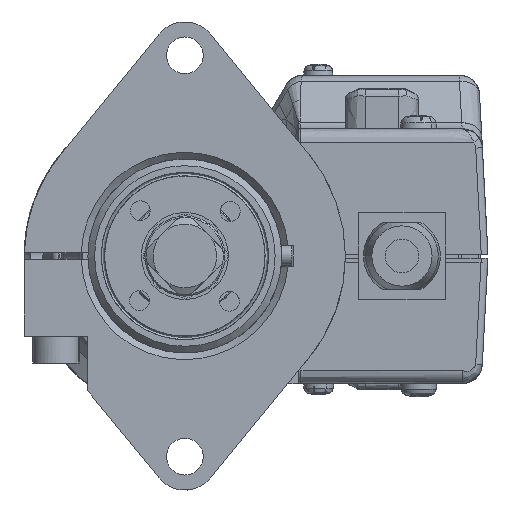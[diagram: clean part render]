
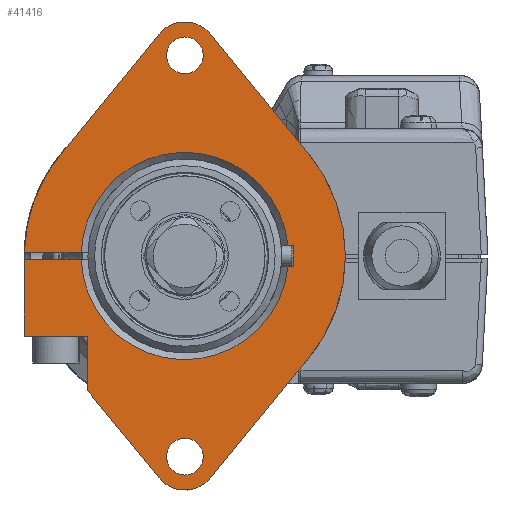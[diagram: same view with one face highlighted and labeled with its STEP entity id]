
A CAD part, left-side view. The second image highlights one B-rep face of the part: STEP entity #41416.
In plain terms, the highlighted planar face has unit normal (-1, 0, 0).
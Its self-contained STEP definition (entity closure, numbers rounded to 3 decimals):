
#40126=CARTESIAN_POINT('',(684.34,734.596,-451.712));
#40127=VERTEX_POINT('',#40126);
#40134=CARTESIAN_POINT('',(684.34,749.3,-469.679));
#40135=VERTEX_POINT('',#40134);
#40136=CARTESIAN_POINT('',(684.34,749.3,-469.679));
#40137=DIRECTION('',(0.,-0.633,0.774));
#40138=VECTOR('',#40137,23.216);
#40139=LINE('',#40136,#40138);
#40140=EDGE_CURVE('',#40135,#40127,#40139,.T.);
#40165=CARTESIAN_POINT('',(684.34,734.596,-421.312));
#40166=VERTEX_POINT('',#40165);
#40173=CARTESIAN_POINT('',(684.34,753.169,-436.512));
#40174=DIRECTION('',(-1.,0.,0.));
#40175=DIRECTION('',(0.,-0.774,-0.633));
#40176=AXIS2_PLACEMENT_3D('',#40173,#40174,#40175);
#40177=CIRCLE('',#40176,24.);
#40178=EDGE_CURVE('',#40127,#40166,#40177,.T.);
#40197=CARTESIAN_POINT('',(684.34,749.3,-403.345));
#40198=VERTEX_POINT('',#40197);
#40205=CARTESIAN_POINT('',(684.34,734.596,-421.312));
#40206=DIRECTION('',(0.,0.633,0.774));
#40207=VECTOR('',#40206,23.216);
#40208=LINE('',#40205,#40207);
#40209=EDGE_CURVE('',#40166,#40198,#40208,.T.);
#40229=CARTESIAN_POINT('',(684.34,757.039,-403.345));
#40230=VERTEX_POINT('',#40229);
#40237=CARTESIAN_POINT('',(684.34,753.169,-406.512));
#40238=DIRECTION('',(-1.0,0.,0.));
#40239=DIRECTION('',(0.,-0.774,0.633));
#40240=AXIS2_PLACEMENT_3D('',#40237,#40238,#40239);
#40241=CIRCLE('',#40240,5.);
#40242=EDGE_CURVE('',#40198,#40230,#40241,.T.);
#40287=CARTESIAN_POINT('',(684.34,771.742,-421.312));
#40288=VERTEX_POINT('',#40287);
#40295=CARTESIAN_POINT('',(684.34,757.039,-403.345));
#40296=DIRECTION('',(0.,0.633,-0.774));
#40297=VECTOR('',#40296,23.216);
#40298=LINE('',#40295,#40297);
#40299=EDGE_CURVE('',#40230,#40288,#40298,.T.);
#40319=CARTESIAN_POINT('',(684.34,777.164,-436.012));
#40320=VERTEX_POINT('',#40319);
#40327=CARTESIAN_POINT('',(684.34,753.169,-436.512));
#40328=DIRECTION('',(-1.,0.,0.));
#40329=DIRECTION('',(0.,0.774,0.633));
#40330=AXIS2_PLACEMENT_3D('',#40327,#40328,#40329);
#40331=CIRCLE('',#40330,24.);
#40332=EDGE_CURVE('',#40288,#40320,#40331,.T.);
#40382=CARTESIAN_POINT('',(684.34,736.969,-438.012));
#40383=VERTEX_POINT('',#40382);
#40390=CARTESIAN_POINT('',(684.34,736.969,-435.012));
#40391=VERTEX_POINT('',#40390);
#40392=CARTESIAN_POINT('',(684.34,736.969,-435.012));
#40393=DIRECTION('',(0.,0.,-1.));
#40394=VECTOR('',#40393,3.);
#40395=LINE('',#40392,#40394);
#40396=EDGE_CURVE('',#40391,#40383,#40395,.T.);
#40422=CARTESIAN_POINT('',(684.34,777.169,-448.512));
#40423=VERTEX_POINT('',#40422);
#40430=CARTESIAN_POINT('',(684.34,777.169,-437.012));
#40431=VERTEX_POINT('',#40430);
#40432=CARTESIAN_POINT('',(684.34,777.169,-437.012));
#40433=DIRECTION('',(0.,0.,-1.));
#40434=VECTOR('',#40433,11.5);
#40435=LINE('',#40432,#40434);
#40436=EDGE_CURVE('',#40431,#40423,#40435,.T.);
#40460=CARTESIAN_POINT('',(684.34,767.669,-448.512));
#40461=VERTEX_POINT('',#40460);
#40468=CARTESIAN_POINT('',(684.34,777.169,-448.512));
#40469=DIRECTION('',(0.,-1.,0.));
#40470=VECTOR('',#40469,9.5);
#40471=LINE('',#40468,#40470);
#40472=EDGE_CURVE('',#40423,#40461,#40471,.T.);
#40511=CARTESIAN_POINT('',(684.34,767.669,-456.689));
#40512=VERTEX_POINT('',#40511);
#40519=CARTESIAN_POINT('',(684.34,767.669,-448.512));
#40520=DIRECTION('',(0.,0.,-1.));
#40521=VECTOR('',#40520,8.177);
#40522=LINE('',#40519,#40521);
#40523=EDGE_CURVE('',#40461,#40512,#40522,.T.);
#40542=CARTESIAN_POINT('',(684.34,757.039,-469.679));
#40543=VERTEX_POINT('',#40542);
#40550=CARTESIAN_POINT('',(684.34,767.669,-456.689));
#40551=DIRECTION('',(0.,-0.633,-0.774));
#40552=VECTOR('',#40551,16.785);
#40553=LINE('',#40550,#40552);
#40554=EDGE_CURVE('',#40512,#40543,#40553,.T.);
#40573=CARTESIAN_POINT('',(684.34,753.169,-466.512));
#40574=DIRECTION('',(-1.0,0.,0.));
#40575=DIRECTION('',(0.,0.774,-0.633));
#40576=AXIS2_PLACEMENT_3D('',#40573,#40574,#40575);
#40577=CIRCLE('',#40576,5.);
#40578=EDGE_CURVE('',#40543,#40135,#40577,.T.);
#40678=CARTESIAN_POINT('',(684.34,755.919,-406.512));
#40679=VERTEX_POINT('',#40678);
#40686=CARTESIAN_POINT('',(684.34,750.419,-406.512));
#40687=VERTEX_POINT('',#40686);
#40688=CARTESIAN_POINT('',(684.34,753.169,-406.512));
#40689=DIRECTION('',(-1.,0.,0.));
#40690=DIRECTION('',(0.,1.,0.));
#40691=AXIS2_PLACEMENT_3D('',#40688,#40689,#40690);
#40692=CIRCLE('',#40691,2.75);
#40693=EDGE_CURVE('',#40679,#40687,#40692,.T.);
#40695=CARTESIAN_POINT('',(684.34,753.169,-406.512));
#40696=DIRECTION('',(-1.,0.,0.));
#40697=DIRECTION('',(0.,1.,0.));
#40698=AXIS2_PLACEMENT_3D('',#40695,#40696,#40697);
#40699=CIRCLE('',#40698,2.75);
#40700=EDGE_CURVE('',#40687,#40679,#40699,.T.);
#40729=CARTESIAN_POINT('',(684.34,755.919,-466.512));
#40730=VERTEX_POINT('',#40729);
#40737=CARTESIAN_POINT('',(684.34,750.419,-466.512));
#40738=VERTEX_POINT('',#40737);
#40739=CARTESIAN_POINT('',(684.34,753.169,-466.512));
#40740=DIRECTION('',(-1.,0.,0.));
#40741=DIRECTION('',(0.,1.,0.));
#40742=AXIS2_PLACEMENT_3D('',#40739,#40740,#40741);
#40743=CIRCLE('',#40742,2.75);
#40744=EDGE_CURVE('',#40730,#40738,#40743,.T.);
#40746=CARTESIAN_POINT('',(684.34,753.169,-466.512));
#40747=DIRECTION('',(-1.,0.,0.));
#40748=DIRECTION('',(0.,1.,0.));
#40749=AXIS2_PLACEMENT_3D('',#40746,#40747,#40748);
#40750=CIRCLE('',#40749,2.75);
#40751=EDGE_CURVE('',#40738,#40730,#40750,.T.);
#40771=CARTESIAN_POINT('',(684.34,768.661,-437.012));
#40772=VERTEX_POINT('',#40771);
#40773=CARTESIAN_POINT('',(684.34,768.661,-437.012));
#40774=DIRECTION('',(0.,1.,0.));
#40775=VECTOR('',#40774,8.508);
#40776=LINE('',#40773,#40775);
#40777=EDGE_CURVE('',#40772,#40431,#40776,.T.);
#40933=CARTESIAN_POINT('',(684.34,737.742,-438.012));
#40934=VERTEX_POINT('',#40933);
#40941=CARTESIAN_POINT('',(684.34,736.969,-438.012));
#40942=DIRECTION('',(0.,1.,0.));
#40943=VECTOR('',#40942,0.773);
#40944=LINE('',#40941,#40943);
#40945=EDGE_CURVE('',#40383,#40934,#40944,.T.);
#40958=CARTESIAN_POINT('',(684.34,737.742,-435.012));
#40959=VERTEX_POINT('',#40958);
#40989=CARTESIAN_POINT('',(684.34,737.742,-435.012));
#40990=DIRECTION('',(0.,-1.,0.));
#40991=VECTOR('',#40990,0.773);
#40992=LINE('',#40989,#40991);
#40993=EDGE_CURVE('',#40959,#40391,#40992,.T.);
#41085=CARTESIAN_POINT('',(684.34,768.661,-436.012));
#41086=VERTEX_POINT('',#41085);
#41087=CARTESIAN_POINT('',(684.34,753.169,-436.512));
#41088=DIRECTION('',(1.,0.,0.));
#41089=DIRECTION('',(0.,1.,0.));
#41090=AXIS2_PLACEMENT_3D('',#41087,#41088,#41089);
#41091=CIRCLE('',#41090,15.5);
#41092=EDGE_CURVE('',#41086,#40959,#41091,.T.);
#41132=CARTESIAN_POINT('',(684.34,777.164,-436.012));
#41133=DIRECTION('',(0.,-1.,0.));
#41134=VECTOR('',#41133,8.503);
#41135=LINE('',#41132,#41134);
#41136=EDGE_CURVE('',#40320,#41086,#41135,.T.);
#41326=CARTESIAN_POINT('',(684.34,753.169,-436.512));
#41327=DIRECTION('',(1.,0.,0.));
#41328=DIRECTION('',(0.,0.999,-0.034));
#41329=AXIS2_PLACEMENT_3D('',#41326,#41327,#41328);
#41330=CIRCLE('',#41329,15.5);
#41331=EDGE_CURVE('',#40934,#40772,#41330,.T.);
#41383=CARTESIAN_POINT('',(684.34,724.369,-394.512));
#41384=DIRECTION('',(-1.0,0.,0.));
#41385=DIRECTION('',(0.,1.,0.));
#41386=AXIS2_PLACEMENT_3D('',#41383,#41384,#41385);
#41387=PLANE('',#41386);
#41388=ORIENTED_EDGE('',*,*,#40140,.T.);
#41389=ORIENTED_EDGE('',*,*,#40178,.T.);
#41390=ORIENTED_EDGE('',*,*,#40209,.T.);
#41391=ORIENTED_EDGE('',*,*,#40242,.T.);
#41392=ORIENTED_EDGE('',*,*,#40299,.T.);
#41393=ORIENTED_EDGE('',*,*,#40332,.T.);
#41394=ORIENTED_EDGE('',*,*,#41136,.T.);
#41395=ORIENTED_EDGE('',*,*,#41092,.T.);
#41396=ORIENTED_EDGE('',*,*,#40993,.T.);
#41397=ORIENTED_EDGE('',*,*,#40396,.T.);
#41398=ORIENTED_EDGE('',*,*,#40945,.T.);
#41399=ORIENTED_EDGE('',*,*,#41331,.T.);
#41400=ORIENTED_EDGE('',*,*,#40777,.T.);
#41401=ORIENTED_EDGE('',*,*,#40436,.T.);
#41402=ORIENTED_EDGE('',*,*,#40472,.T.);
#41403=ORIENTED_EDGE('',*,*,#40523,.T.);
#41404=ORIENTED_EDGE('',*,*,#40554,.T.);
#41405=ORIENTED_EDGE('',*,*,#40578,.T.);
#41406=EDGE_LOOP('',(#41388,#41389,#41390,#41391,#41392,#41393,#41394,#41395,#41396,#41397,#41398,#41399,#41400,#41401,#41402,#41403,#41404,#41405));
#41407=FACE_OUTER_BOUND('',#41406,.T.);
#41408=ORIENTED_EDGE('',*,*,#40700,.F.);
#41409=ORIENTED_EDGE('',*,*,#40693,.F.);
#41410=EDGE_LOOP('',(#41408,#41409));
#41411=FACE_BOUND('',#41410,.T.);
#41412=ORIENTED_EDGE('',*,*,#40751,.F.);
#41413=ORIENTED_EDGE('',*,*,#40744,.F.);
#41414=EDGE_LOOP('',(#41412,#41413));
#41415=FACE_BOUND('',#41414,.T.);
#41416=ADVANCED_FACE('',(#41407,#41411,#41415),#41387,.T.);
